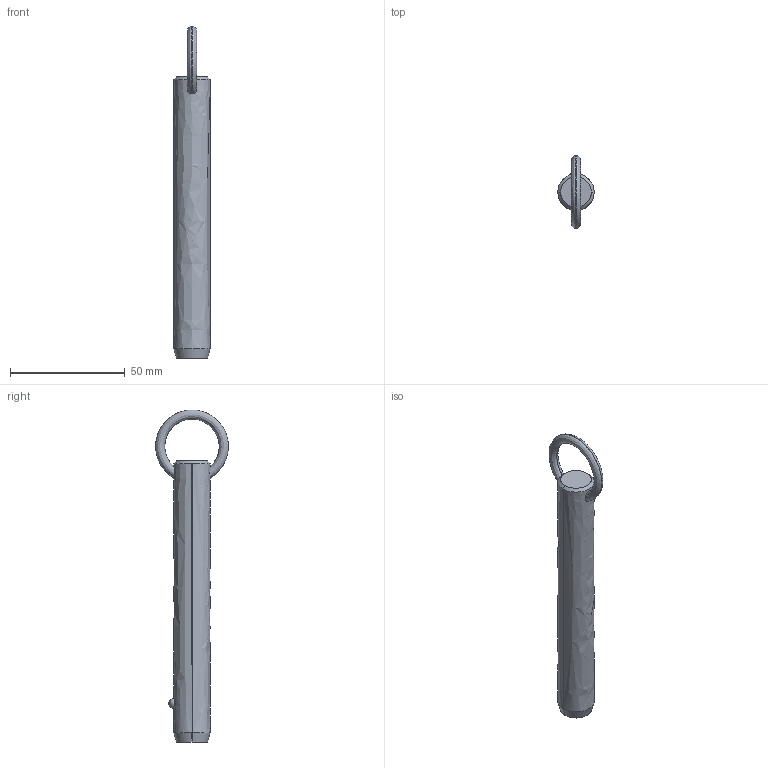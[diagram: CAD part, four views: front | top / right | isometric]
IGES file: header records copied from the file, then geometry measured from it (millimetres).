
Start section: SolidWorks IGES file using analytic representation for surfaces
Global section: file name: C:\Users\liam_\OneDrive\Documents\WORK\Work for WixRoyd\Job Files\J-00019 - Matt Davis CAD Checking\04. CAD Drawings\automotion20190605\P1250.2_v2\P1250.2_v2_20190729_IGES\P1250.062-370.igs; native system: SolidWorks 2017; preprocessor: SolidWorks 2017; author: liam_; date: 190729.233607; units: millimetre
Bounding box: 15.8 x 31.65 x 144.69 mm (x, y, z)
Surface area: 7254.4 mm2 (no closed solid volume)
Topology: 0 solids, 0 shells, 12 faces, 292 edges, 290 vertices
Faces by surface type: revolution 8, bspline 4
